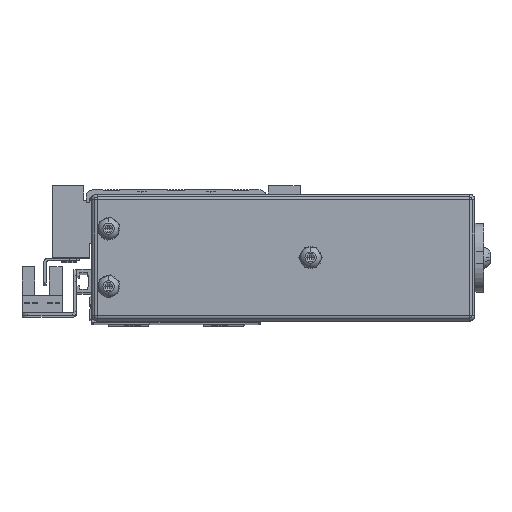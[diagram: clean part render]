
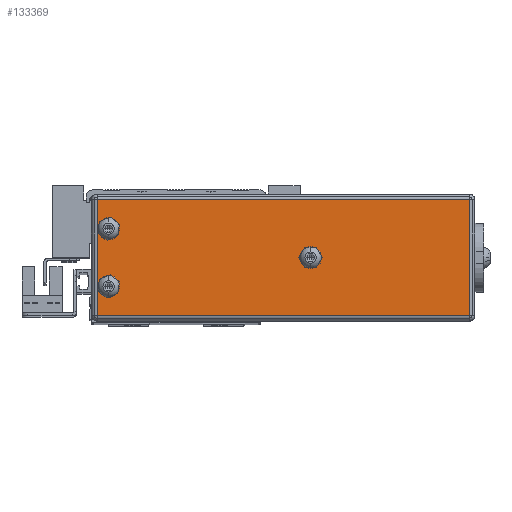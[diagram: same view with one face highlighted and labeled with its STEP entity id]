
A CAD part, top view. The second image highlights one B-rep face of the part: STEP entity #133369.
In plain terms, the highlighted planar face has unit normal (0, 0, 1).
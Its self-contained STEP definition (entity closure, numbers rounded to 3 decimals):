
#3334 = AXIS2_PLACEMENT_3D ( 'NONE', #64517, #162497, #78605 ) ;
#6732 = CARTESIAN_POINT ( 'NONE',  ( -37.911, 10.921, 163. ) ) ;
#9486 = VERTEX_POINT ( 'NONE', #150683 ) ;
#9870 = CARTESIAN_POINT ( 'NONE',  ( -116.161, -9.079, 163. ) ) ;
#11490 = CARTESIAN_POINT ( 'NONE',  ( 14.839, -9.079, 163. ) ) ;
#13627 = CARTESIAN_POINT ( 'NONE',  ( -110.161, 0.921, 163. ) ) ;
#13654 = DIRECTION ( 'NONE',  ( 1., 0., 0. ) ) ;
#15999 = DIRECTION ( 'NONE',  ( -1., 0., 0. ) ) ;
#16525 = FACE_BOUND ( 'NONE', #102832, .T. ) ;
#18133 = EDGE_CURVE ( 'NONE', #111751, #42812, #101716, .T. ) ;
#23356 = CIRCLE ( 'NONE', #41551, 2.25 ) ;
#23709 = ORIENTED_EDGE ( 'NONE', *, *, #178438, .F. ) ;
#27199 = AXIS2_PLACEMENT_3D ( 'NONE', #79759, #81548, #67461 ) ;
#28246 = EDGE_LOOP ( 'NONE', ( #179129, #102742 ) ) ;
#30266 = DIRECTION ( 'NONE',  ( 0., 1., 0. ) ) ;
#33047 = EDGE_LOOP ( 'NONE', ( #128334, #107785 ) ) ;
#33234 = VERTEX_POINT ( 'NONE', #6732 ) ;
#34112 = CARTESIAN_POINT ( 'NONE',  ( -110.161, 20.921, 163. ) ) ;
#34597 = EDGE_CURVE ( 'NONE', #108394, #181146, #54154, .T. ) ;
#41551 = AXIS2_PLACEMENT_3D ( 'NONE', #157469, #102938, #58852 ) ;
#41995 = CARTESIAN_POINT ( 'NONE',  ( 14.839, 30.921, 163. ) ) ;
#42812 = VERTEX_POINT ( 'NONE', #165652 ) ;
#42967 = PLANE ( 'NONE',  #153087 ) ;
#43731 = CARTESIAN_POINT ( 'NONE',  ( 14.839, -11.079, 163. ) ) ;
#47201 = VECTOR ( 'NONE', #129257, 1000. ) ;
#48232 = DIRECTION ( 'NONE',  ( 1., 0., 0. ) ) ;
#54154 = LINE ( 'NONE', #73046, #146324 ) ;
#56229 = ORIENTED_EDGE ( 'NONE', *, *, #79828, .F. ) ;
#58852 = DIRECTION ( 'NONE',  ( 1., 0., 0. ) ) ;
#60934 = AXIS2_PLACEMENT_3D ( 'NONE', #154047, #97662, #13654 ) ;
#61419 = VERTEX_POINT ( 'NONE', #103626 ) ;
#64517 = CARTESIAN_POINT ( 'NONE',  ( -40.161, 10.921, 163. ) ) ;
#67461 = DIRECTION ( 'NONE',  ( 1., 0., 0. ) ) ;
#71296 = LINE ( 'NONE', #171381, #47201 ) ;
#73046 = CARTESIAN_POINT ( 'NONE',  ( -116.161, 30.921, 163. ) ) ;
#73752 = CARTESIAN_POINT ( 'NONE',  ( -107.911, 0.921, 163. ) ) ;
#73886 = ORIENTED_EDGE ( 'NONE', *, *, #34597, .T. ) ;
#75477 = VECTOR ( 'NONE', #30266, 1000. ) ;
#77709 = CIRCLE ( 'NONE', #60934, 2.25 ) ;
#77847 = VECTOR ( 'NONE', #152051, 1000. ) ;
#78605 = DIRECTION ( 'NONE',  ( 1., 0., 0. ) ) ;
#79759 = CARTESIAN_POINT ( 'NONE',  ( -110.161, 20.921, 163. ) ) ;
#79828 = EDGE_CURVE ( 'NONE', #9486, #33234, #159763, .T. ) ;
#81548 = DIRECTION ( 'NONE',  ( 0., 0., 1. ) ) ;
#83325 = EDGE_CURVE ( 'NONE', #147857, #91697, #112967, .T. ) ;
#87641 = DIRECTION ( 'NONE',  ( 0., 0., -1. ) ) ;
#91697 = VERTEX_POINT ( 'NONE', #73752 ) ;
#96651 = EDGE_CURVE ( 'NONE', #91697, #147857, #77709, .T. ) ;
#97662 = DIRECTION ( 'NONE',  ( 0., 0., 1. ) ) ;
#98229 = DIRECTION ( 'NONE',  ( 1., 0., 0. ) ) ;
#101004 = CIRCLE ( 'NONE', #27199, 2.25 ) ;
#101542 = CARTESIAN_POINT ( 'NONE',  ( -114.161, 30.921, 163. ) ) ;
#101716 = CIRCLE ( 'NONE', #147411, 2.25 ) ;
#101986 = ORIENTED_EDGE ( 'NONE', *, *, #107875, .T. ) ;
#101990 = FACE_OUTER_BOUND ( 'NONE', #130292, .T. ) ;
#102742 = ORIENTED_EDGE ( 'NONE', *, *, #83325, .F. ) ;
#102832 = EDGE_LOOP ( 'NONE', ( #23709, #56229 ) ) ;
#102938 = DIRECTION ( 'NONE',  ( 0., 0., 1. ) ) ;
#103626 = CARTESIAN_POINT ( 'NONE',  ( -114.161, -9.079, 163. ) ) ;
#103818 = EDGE_CURVE ( 'NONE', #114448, #108394, #128106, .T. ) ;
#106539 = EDGE_CURVE ( 'NONE', #42812, #111751, #101004, .T. ) ;
#107785 = ORIENTED_EDGE ( 'NONE', *, *, #106539, .F. ) ;
#107875 = EDGE_CURVE ( 'NONE', #181146, #61419, #71296, .T. ) ;
#108316 = ORIENTED_EDGE ( 'NONE', *, *, #128215, .T. ) ;
#108394 = VERTEX_POINT ( 'NONE', #41995 ) ;
#111126 = DIRECTION ( 'NONE',  ( 0., 0., 1. ) ) ;
#111751 = VERTEX_POINT ( 'NONE', #125836 ) ;
#112967 = CIRCLE ( 'NONE', #131039, 2.25 ) ;
#114448 = VERTEX_POINT ( 'NONE', #11490 ) ;
#115374 = DIRECTION ( 'NONE',  ( -1., 0., 0. ) ) ;
#119838 = CARTESIAN_POINT ( 'NONE',  ( -112.411, 0.921, 163. ) ) ;
#125836 = CARTESIAN_POINT ( 'NONE',  ( -107.911, 20.921, 163. ) ) ;
#128106 = LINE ( 'NONE', #43731, #75477 ) ;
#128215 = EDGE_CURVE ( 'NONE', #61419, #114448, #128342, .T. ) ;
#128334 = ORIENTED_EDGE ( 'NONE', *, *, #18133, .F. ) ;
#128342 = LINE ( 'NONE', #9870, #77847 ) ;
#129257 = DIRECTION ( 'NONE',  ( 0., -1., 0. ) ) ;
#130292 = EDGE_LOOP ( 'NONE', ( #153280, #73886, #101986, #108316 ) ) ;
#131039 = AXIS2_PLACEMENT_3D ( 'NONE', #13627, #111126, #98229 ) ;
#132248 = DIRECTION ( 'NONE',  ( 0., 0., 1. ) ) ;
#133369 = ADVANCED_FACE ( 'NONE', ( #16525, #176425, #161198, #101990 ), #42967, .F. ) ;
#146324 = VECTOR ( 'NONE', #115374, 1000. ) ;
#147411 = AXIS2_PLACEMENT_3D ( 'NONE', #34112, #132248, #48232 ) ;
#147857 = VERTEX_POINT ( 'NONE', #119838 ) ;
#150683 = CARTESIAN_POINT ( 'NONE',  ( -42.411, 10.921, 163. ) ) ;
#152051 = DIRECTION ( 'NONE',  ( 1., 0., 0. ) ) ;
#153087 = AXIS2_PLACEMENT_3D ( 'NONE', #155724, #87641, #15999 ) ;
#153280 = ORIENTED_EDGE ( 'NONE', *, *, #103818, .T. ) ;
#154047 = CARTESIAN_POINT ( 'NONE',  ( -110.161, 0.921, 163. ) ) ;
#155724 = CARTESIAN_POINT ( 'NONE',  ( -116.161, -11.079, 163. ) ) ;
#157469 = CARTESIAN_POINT ( 'NONE',  ( -40.161, 10.921, 163. ) ) ;
#159763 = CIRCLE ( 'NONE', #3334, 2.25 ) ;
#161198 = FACE_BOUND ( 'NONE', #33047, .T. ) ;
#162497 = DIRECTION ( 'NONE',  ( 0., 0., 1. ) ) ;
#165652 = CARTESIAN_POINT ( 'NONE',  ( -112.411, 20.921, 163. ) ) ;
#171381 = CARTESIAN_POINT ( 'NONE',  ( -114.161, -11.079, 163. ) ) ;
#176425 = FACE_BOUND ( 'NONE', #28246, .T. ) ;
#178438 = EDGE_CURVE ( 'NONE', #33234, #9486, #23356, .T. ) ;
#179129 = ORIENTED_EDGE ( 'NONE', *, *, #96651, .F. ) ;
#181146 = VERTEX_POINT ( 'NONE', #101542 ) ;
